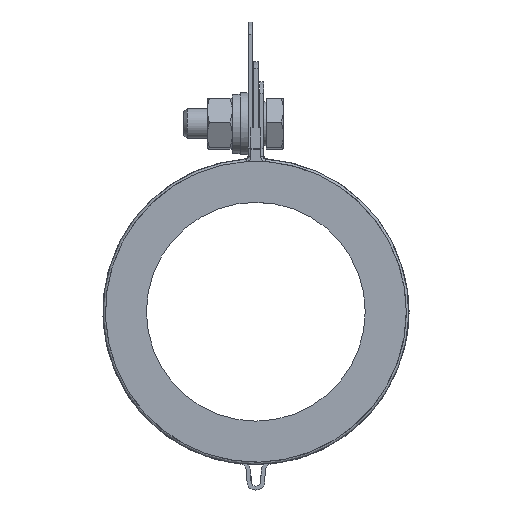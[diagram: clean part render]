
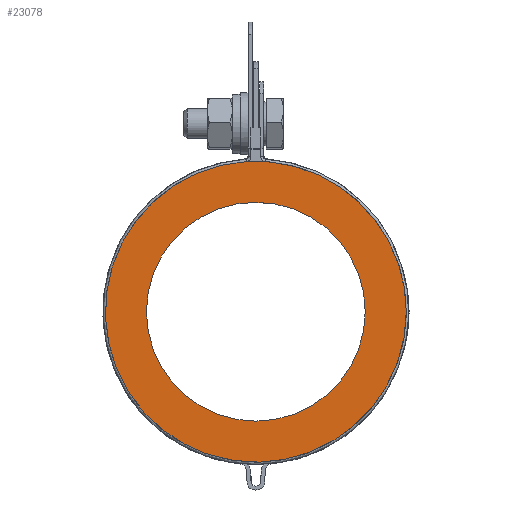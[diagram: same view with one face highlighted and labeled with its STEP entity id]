
A CAD part, front view. The second image highlights one B-rep face of the part: STEP entity #23078.
In plain terms, the highlighted planar face has unit normal (0, -1, 0).
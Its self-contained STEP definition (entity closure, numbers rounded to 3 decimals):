
#370=FACE_BOUND($,#4096,.T.);
#1306=PLANE($,#25383);
#2545=FACE_OUTER_BOUND($,#4095,.T.);
#4095=EDGE_LOOP($,(#20001));
#4096=EDGE_LOOP($,(#20002));
#8976=CIRCLE($,#25150,30.25);
#8981=CIRCLE($,#25380,22.);
#11023=VERTEX_POINT($,#38236);
#11034=VERTEX_POINT($,#38487);
#14022=EDGE_CURVE($,#11023,#11023,#8976,.T.);
#14037=EDGE_CURVE($,#11034,#11034,#8981,.T.);
#20001=ORIENTED_EDGE($,*,*,#14022,.T.);
#20002=ORIENTED_EDGE($,*,*,#14037,.T.);
#23078=ADVANCED_FACE($,(#2545,#370),#1306,.T.);
#25150=AXIS2_PLACEMENT_3D($,#38237,#31348,#31349);
#25380=AXIS2_PLACEMENT_3D($,#38488,#31818,#31819);
#25383=AXIS2_PLACEMENT_3D($,#38491,#31824,#31825);
#31348=DIRECTION('center_axis',(0.,-1.,0.));
#31349=DIRECTION('ref_axis',(-1.,0.,0.));
#31818=DIRECTION('center_axis',(0.,1.,0.));
#31819=DIRECTION('ref_axis',(1.,0.,0.));
#31824=DIRECTION('center_axis',(0.,-1.,0.));
#31825=DIRECTION('ref_axis',(0.,0.,-1.));
#38236=CARTESIAN_POINT('',(30.25,0.,0.));
#38237=CARTESIAN_POINT('Origin',(0.,0.,0.));
#38487=CARTESIAN_POINT('',(-22.,0.,0.));
#38488=CARTESIAN_POINT('Origin',(0.,0.,0.));
#38491=CARTESIAN_POINT('Origin',(0.,0.,0.));
